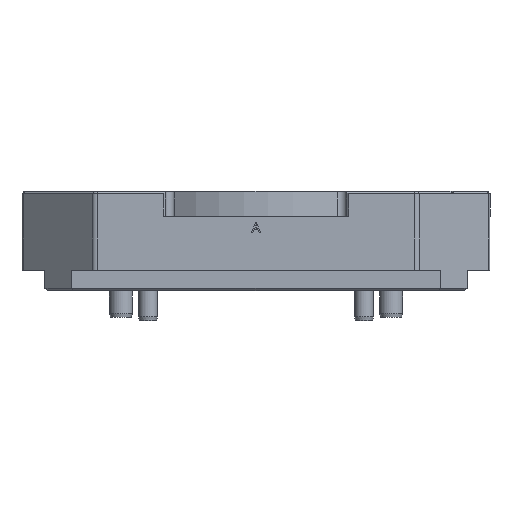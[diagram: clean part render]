
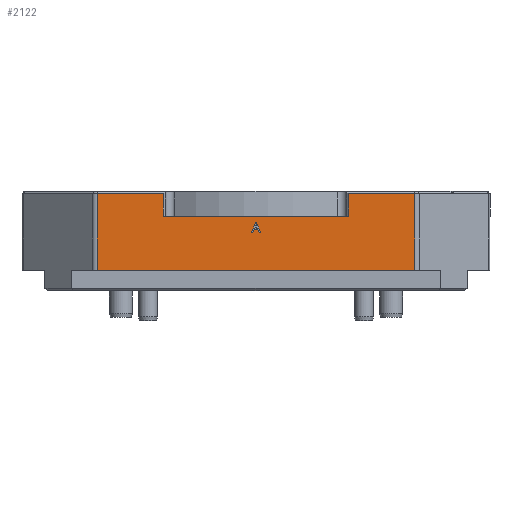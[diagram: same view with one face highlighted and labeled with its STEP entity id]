
A CAD part, front view. The second image highlights one B-rep face of the part: STEP entity #2122.
In plain terms, the highlighted planar face has unit normal (0, -1, 0).
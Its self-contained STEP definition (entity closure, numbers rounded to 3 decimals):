
#267 = CARTESIAN_POINT ( 'NONE',  ( 122.5, -122.5, -19.836 ) ) ;
#350 = DIRECTION ( 'NONE',  ( 1., 0., 0. ) ) ;
#481 = LINE ( 'NONE', #18118, #25694 ) ;
#712 = ORIENTED_EDGE ( 'NONE', *, *, #35421, .F. ) ;
#995 = EDGE_CURVE ( 'NONE', #7310, #4120, #24731, .T. ) ;
#1247 = DIRECTION ( 'NONE',  ( 0., 0., 1. ) ) ;
#1452 = VERTEX_POINT ( 'NONE', #25238 ) ;
#1497 = CARTESIAN_POINT ( 'NONE',  ( -0.107, -122.5, -16.301 ) ) ;
#1548 = DIRECTION ( 'NONE',  ( 0., 0., 1. ) ) ;
#2033 = VERTEX_POINT ( 'NONE', #12030 ) ;
#2122 = ADVANCED_FACE ( 'NONE', ( #19165, #25765 ), #10432, .F. ) ;
#2381 = EDGE_CURVE ( 'NONE', #5166, #4923, #34743, .T. ) ;
#3240 = CARTESIAN_POINT ( 'NONE',  ( -48.5, -122.5, -13. ) ) ;
#3365 = CARTESIAN_POINT ( 'NONE',  ( 0.156, -122.5, -16.301 ) ) ;
#3467 = EDGE_CURVE ( 'NONE', #4532, #1452, #15407, .T. ) ;
#3530 = ORIENTED_EDGE ( 'NONE', *, *, #29306, .F. ) ;
#3747 = VECTOR ( 'NONE', #350, 1000. ) ;
#3817 = CARTESIAN_POINT ( 'NONE',  ( 0.998, -122.5, -19.836 ) ) ;
#4120 = VERTEX_POINT ( 'NONE', #17522 ) ;
#4399 = DIRECTION ( 'NONE',  ( 1., 0., 0. ) ) ;
#4532 = VERTEX_POINT ( 'NONE', #10892 ) ;
#4539 = CARTESIAN_POINT ( 'NONE',  ( 122.5, -122.5, -1.2 ) ) ;
#4559 = VECTOR ( 'NONE', #30051, 1000. ) ;
#4621 = EDGE_LOOP ( 'NONE', ( #32437, #21869, #21804, #20158, #3530, #10764, #4806, #15901 ) ) ;
#4806 = ORIENTED_EDGE ( 'NONE', *, *, #19037, .F. ) ;
#4862 = EDGE_CURVE ( 'NONE', #7497, #2033, #10659, .T. ) ;
#4923 = VERTEX_POINT ( 'NONE', #3365 ) ;
#5166 = VERTEX_POINT ( 'NONE', #40935 ) ;
#5508 = VERTEX_POINT ( 'NONE', #29232 ) ;
#5748 = VERTEX_POINT ( 'NONE', #21933 ) ;
#5751 = ORIENTED_EDGE ( 'NONE', *, *, #25896, .F. ) ;
#5833 = LINE ( 'NONE', #267, #3747 ) ;
#6117 = DIRECTION ( 'NONE',  ( -0.405, 0., 0.914 ) ) ;
#6215 = ORIENTED_EDGE ( 'NONE', *, *, #20722, .F. ) ;
#6268 = CARTESIAN_POINT ( 'NONE',  ( 2.457, -122.5, -21.498 ) ) ;
#6580 = VERTEX_POINT ( 'NONE', #35078 ) ;
#6747 = VERTEX_POINT ( 'NONE', #28975 ) ;
#6912 = DIRECTION ( 'NONE',  ( 0., 0., -1. ) ) ;
#7062 = CARTESIAN_POINT ( 'NONE',  ( -0.107, -122.5, -16.301 ) ) ;
#7310 = VERTEX_POINT ( 'NONE', #3240 ) ;
#7392 = EDGE_CURVE ( 'NONE', #6580, #5748, #5833, .T. ) ;
#7497 = VERTEX_POINT ( 'NONE', #7547 ) ;
#7547 = CARTESIAN_POINT ( 'NONE',  ( 48.5, -122.5, -1.2 ) ) ;
#7807 = LINE ( 'NONE', #32575, #14499 ) ;
#7835 = VECTOR ( 'NONE', #1548, 1000. ) ;
#9127 = CARTESIAN_POINT ( 'NONE',  ( 0., -122.5, -41.3 ) ) ;
#9159 = VECTOR ( 'NONE', #26792, 1000. ) ;
#10326 = DIRECTION ( 'NONE',  ( -1., 0., 0. ) ) ;
#10334 = DIRECTION ( 'NONE',  ( 0., 1., 0. ) ) ;
#10432 = PLANE ( 'NONE',  #41766 ) ;
#10488 = CARTESIAN_POINT ( 'NONE',  ( 122.5, -122.5, -52.001 ) ) ;
#10659 = LINE ( 'NONE', #4539, #19407 ) ;
#10764 = ORIENTED_EDGE ( 'NONE', *, *, #17655, .F. ) ;
#10834 = VERTEX_POINT ( 'NONE', #1497 ) ;
#10892 = CARTESIAN_POINT ( 'NONE',  ( -83.175, -122.5, -1.2 ) ) ;
#11621 = DIRECTION ( 'NONE',  ( -1., 0., 0. ) ) ;
#12030 = CARTESIAN_POINT ( 'NONE',  ( 83.175, -122.5, -1.2 ) ) ;
#12235 = LINE ( 'NONE', #38092, #35030 ) ;
#12459 = VECTOR ( 'NONE', #1247, 1000. ) ;
#12467 = ORIENTED_EDGE ( 'NONE', *, *, #3467, .F. ) ;
#13238 = VERTEX_POINT ( 'NONE', #38526 ) ;
#13504 = LINE ( 'NONE', #27396, #12459 ) ;
#14499 = VECTOR ( 'NONE', #38797, 1000. ) ;
#15407 = LINE ( 'NONE', #30364, #4559 ) ;
#15901 = ORIENTED_EDGE ( 'NONE', *, *, #23104, .F. ) ;
#16283 = ORIENTED_EDGE ( 'NONE', *, *, #24118, .F. ) ;
#17083 = EDGE_CURVE ( 'NONE', #5748, #5508, #26568, .T. ) ;
#17522 = CARTESIAN_POINT ( 'NONE',  ( 48.5, -122.5, -13. ) ) ;
#17655 = EDGE_CURVE ( 'NONE', #6747, #13238, #40417, .T. ) ;
#17796 = CARTESIAN_POINT ( 'NONE',  ( 122.5, -122.5, -21.498 ) ) ;
#18118 = CARTESIAN_POINT ( 'NONE',  ( 122.5, -122.5, -16.301 ) ) ;
#18771 = DIRECTION ( 'NONE',  ( 0., 0., -1. ) ) ;
#19037 = EDGE_CURVE ( 'NONE', #10834, #6747, #37837, .T. ) ;
#19165 = FACE_OUTER_BOUND ( 'NONE', #39528, .T. ) ;
#19407 = VECTOR ( 'NONE', #4399, 1000. ) ;
#20046 = DIRECTION ( 'NONE',  ( 1., 0., 0. ) ) ;
#20158 = ORIENTED_EDGE ( 'NONE', *, *, #7392, .F. ) ;
#20201 = DIRECTION ( 'NONE',  ( -0.408, 0., -0.913 ) ) ;
#20722 = EDGE_CURVE ( 'NONE', #37850, #4532, #13504, .T. ) ;
#20947 = DIRECTION ( 'NONE',  ( 1., 0., 0. ) ) ;
#21804 = ORIENTED_EDGE ( 'NONE', *, *, #17083, .F. ) ;
#21869 = ORIENTED_EDGE ( 'NONE', *, *, #22288, .F. ) ;
#21933 = CARTESIAN_POINT ( 'NONE',  ( 0.998, -122.5, -19.836 ) ) ;
#22288 = EDGE_CURVE ( 'NONE', #5508, #5166, #36714, .T. ) ;
#22473 = VECTOR ( 'NONE', #20947, 1000. ) ;
#22769 = VERTEX_POINT ( 'NONE', #25695 ) ;
#23104 = EDGE_CURVE ( 'NONE', #4923, #10834, #481, .T. ) ;
#23675 = LINE ( 'NONE', #9127, #33193 ) ;
#24118 = EDGE_CURVE ( 'NONE', #1452, #7310, #28101, .T. ) ;
#24305 = ORIENTED_EDGE ( 'NONE', *, *, #995, .F. ) ;
#24731 = LINE ( 'NONE', #32992, #25240 ) ;
#25238 = CARTESIAN_POINT ( 'NONE',  ( -48.5, -122.5, -1.2 ) ) ;
#25240 = VECTOR ( 'NONE', #32767, 1000. ) ;
#25300 = LINE ( 'NONE', #40434, #7835 ) ;
#25694 = VECTOR ( 'NONE', #11621, 1000. ) ;
#25695 = CARTESIAN_POINT ( 'NONE',  ( 83.175, -122.5, -41.3 ) ) ;
#25765 = FACE_BOUND ( 'NONE', #4621, .T. ) ;
#25896 = EDGE_CURVE ( 'NONE', #2033, #22769, #12235, .T. ) ;
#26568 = LINE ( 'NONE', #3817, #9159 ) ;
#26792 = DIRECTION ( 'NONE',  ( 0.419, 0., -0.908 ) ) ;
#27396 = CARTESIAN_POINT ( 'NONE',  ( -83.175, -122.5, -105.74 ) ) ;
#28101 = LINE ( 'NONE', #29746, #36554 ) ;
#28975 = CARTESIAN_POINT ( 'NONE',  ( -2.429, -122.5, -21.498 ) ) ;
#29232 = CARTESIAN_POINT ( 'NONE',  ( 1.765, -122.5, -21.498 ) ) ;
#29306 = EDGE_CURVE ( 'NONE', #13238, #6580, #7807, .T. ) ;
#29746 = CARTESIAN_POINT ( 'NONE',  ( -48.5, -122.5, -52.001 ) ) ;
#30051 = DIRECTION ( 'NONE',  ( 1., 0., 0. ) ) ;
#30364 = CARTESIAN_POINT ( 'NONE',  ( 122.5, -122.5, -1.2 ) ) ;
#31880 = DIRECTION ( 'NONE',  ( -1., 0., 0. ) ) ;
#32437 = ORIENTED_EDGE ( 'NONE', *, *, #2381, .F. ) ;
#32575 = CARTESIAN_POINT ( 'NONE',  ( -1.723, -122.5, -21.498 ) ) ;
#32671 = ORIENTED_EDGE ( 'NONE', *, *, #4862, .F. ) ;
#32700 = CARTESIAN_POINT ( 'NONE',  ( 122.5, -122.5, -21.498 ) ) ;
#32767 = DIRECTION ( 'NONE',  ( 1., 0., 0. ) ) ;
#32992 = CARTESIAN_POINT ( 'NONE',  ( 122.5, -122.5, -13. ) ) ;
#33193 = VECTOR ( 'NONE', #31880, 1000. ) ;
#33726 = VECTOR ( 'NONE', #6117, 1000. ) ;
#34743 = LINE ( 'NONE', #6268, #33726 ) ;
#35030 = VECTOR ( 'NONE', #18771, 1000. ) ;
#35078 = CARTESIAN_POINT ( 'NONE',  ( -0.964, -122.5, -19.836 ) ) ;
#35421 = EDGE_CURVE ( 'NONE', #4120, #7497, #25300, .T. ) ;
#35739 = VECTOR ( 'NONE', #20046, 1000. ) ;
#36550 = EDGE_CURVE ( 'NONE', #22769, #37850, #23675, .T. ) ;
#36554 = VECTOR ( 'NONE', #6912, 1000. ) ;
#36714 = LINE ( 'NONE', #32700, #35739 ) ;
#36871 = VECTOR ( 'NONE', #20201, 1000. ) ;
#37162 = CARTESIAN_POINT ( 'NONE',  ( -83.175, -122.5, -41.3 ) ) ;
#37837 = LINE ( 'NONE', #7062, #36871 ) ;
#37850 = VERTEX_POINT ( 'NONE', #37162 ) ;
#38092 = CARTESIAN_POINT ( 'NONE',  ( 83.175, -122.5, -52.001 ) ) ;
#38526 = CARTESIAN_POINT ( 'NONE',  ( -1.723, -122.5, -21.498 ) ) ;
#38797 = DIRECTION ( 'NONE',  ( 0.415, 0., 0.91 ) ) ;
#39528 = EDGE_LOOP ( 'NONE', ( #12467, #6215, #40991, #5751, #32671, #712, #24305, #16283 ) ) ;
#40417 = LINE ( 'NONE', #17796, #22473 ) ;
#40434 = CARTESIAN_POINT ( 'NONE',  ( 48.5, -122.5, -52.001 ) ) ;
#40935 = CARTESIAN_POINT ( 'NONE',  ( 2.457, -122.5, -21.498 ) ) ;
#40991 = ORIENTED_EDGE ( 'NONE', *, *, #36550, .F. ) ;
#41766 = AXIS2_PLACEMENT_3D ( 'NONE', #10488, #10334, #10326 ) ;
